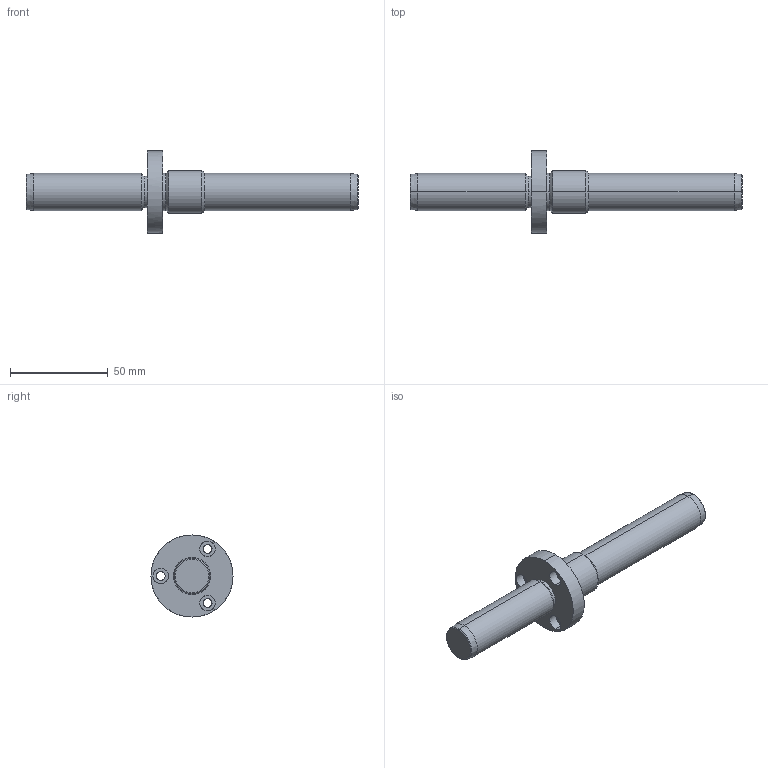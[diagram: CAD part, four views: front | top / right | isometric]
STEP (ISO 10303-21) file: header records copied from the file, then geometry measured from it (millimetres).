
FILE_DESCRIPTION(('CATIA V5 STEP Exchange'),'2;1');
FILE_NAME('C:\Users\Utente\Desktop\IO LAVORO\3D X SITO CF\X SITO\721\721-19x170.stp','2021-01-01T17:34:51+00:00',('none'),('none'),'CATIA Version 5 Release 20 GA (IN-10)','CATIA V5 STEP AP203','none');
FILE_SCHEMA(('CONFIG_CONTROL_DESIGN'));
Length unit declared in the file: millimetre
Products named in the file (1): 721-19x170
Bounding box: 170 x 42 x 42 mm (x, y, z)
Volume: 57621.3 mm3; surface area: 14153.1 mm2
Topology: 1 solids, 1 shells, 45 faces, 150 edges, 112 vertices
Faces by surface type: cylinder 24, cone 10, plane 7, torus 4
Entity records: 2060 total; most frequent: CARTESIAN_POINT 730, ORIENTED_EDGE 300, DIRECTION 206, EDGE_CURVE 150, AXIS2_PLACEMENT_3D 128, VERTEX_POINT 112, CIRCLE 82, EDGE_LOOP 56
